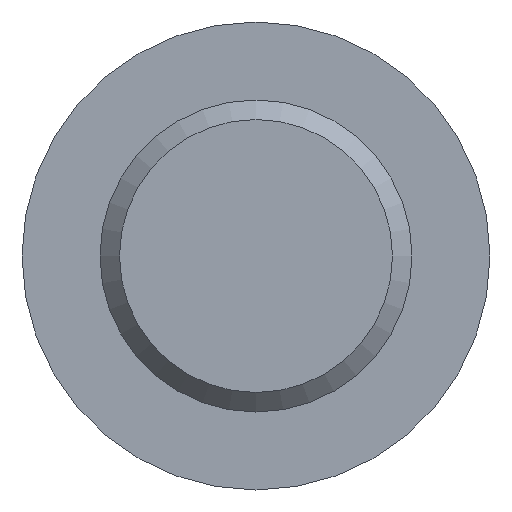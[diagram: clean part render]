
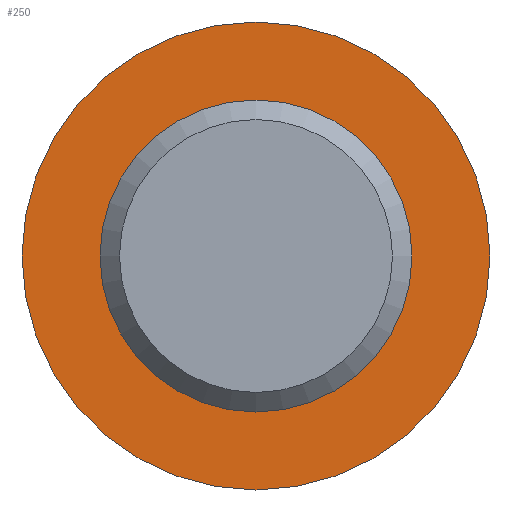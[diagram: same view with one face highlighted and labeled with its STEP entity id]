
A CAD part, front view. The second image highlights one B-rep face of the part: STEP entity #250.
In plain terms, the highlighted planar face has unit normal (0, -1, 0).
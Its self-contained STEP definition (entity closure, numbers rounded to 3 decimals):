
#17=FACE_BOUND('',#61,.T.);
#30=PLANE('',#303);
#43=FACE_OUTER_BOUND('',#60,.T.);
#60=EDGE_LOOP('',(#214,#215));
#61=EDGE_LOOP('',(#216,#217));
#100=CIRCLE('',#301,4.);
#101=CIRCLE('',#302,4.);
#102=CIRCLE('',#304,6.);
#103=CIRCLE('',#305,6.);
#126=VERTEX_POINT('',#456);
#127=VERTEX_POINT('',#457);
#128=VERTEX_POINT('',#462);
#129=VERTEX_POINT('',#463);
#157=EDGE_CURVE('',#126,#127,#100,.T.);
#158=EDGE_CURVE('',#127,#126,#101,.T.);
#160=EDGE_CURVE('',#128,#129,#102,.T.);
#161=EDGE_CURVE('',#129,#128,#103,.T.);
#214=ORIENTED_EDGE('',*,*,#160,.F.);
#215=ORIENTED_EDGE('',*,*,#161,.F.);
#216=ORIENTED_EDGE('',*,*,#157,.T.);
#217=ORIENTED_EDGE('',*,*,#158,.T.);
#250=ADVANCED_FACE('',(#43,#17),#30,.T.);
#301=AXIS2_PLACEMENT_3D('',#458,#375,#376);
#302=AXIS2_PLACEMENT_3D('',#459,#377,#378);
#303=AXIS2_PLACEMENT_3D('',#461,#380,#381);
#304=AXIS2_PLACEMENT_3D('',#464,#382,#383);
#305=AXIS2_PLACEMENT_3D('',#465,#384,#385);
#375=DIRECTION('center_axis',(0.,1.,0.));
#376=DIRECTION('ref_axis',(1.,0.,0.));
#377=DIRECTION('center_axis',(0.,1.,0.));
#378=DIRECTION('ref_axis',(1.,0.,0.));
#380=DIRECTION('center_axis',(0.,-1.,0.));
#381=DIRECTION('ref_axis',(0.,0.,-1.));
#382=DIRECTION('center_axis',(0.,1.,0.));
#383=DIRECTION('ref_axis',(1.,0.,0.));
#384=DIRECTION('center_axis',(0.,1.,0.));
#385=DIRECTION('ref_axis',(1.,0.,0.));
#456=CARTESIAN_POINT('',(0.,-290.,4.));
#457=CARTESIAN_POINT('',(0.,-290.,-4.));
#458=CARTESIAN_POINT('Origin',(0.,-290.,0.));
#459=CARTESIAN_POINT('Origin',(0.,-290.,0.));
#461=CARTESIAN_POINT('Origin',(0.,-290.,6.));
#462=CARTESIAN_POINT('',(0.,-290.,6.));
#463=CARTESIAN_POINT('',(0.,-290.,-6.));
#464=CARTESIAN_POINT('Origin',(0.,-290.,0.));
#465=CARTESIAN_POINT('Origin',(0.,-290.,0.));
